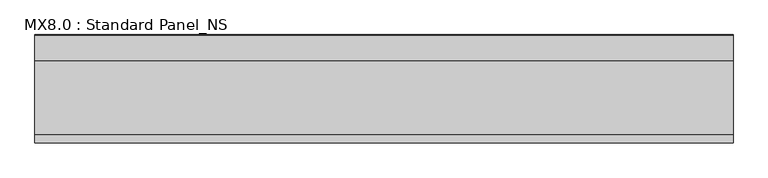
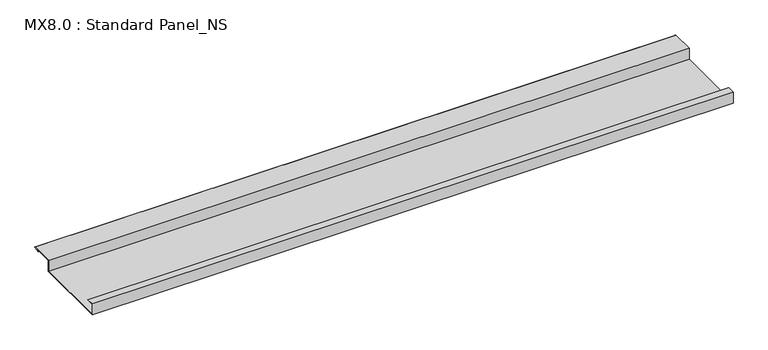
"""IFC4 building model written with IfcOpenShell, lengths in millimetres: proxy geometry, MX8.0 : Standard Panel_NS."""

from ifc_helpers import new_model, si_unit, point, frame, frame_2d, origin, place, context, project, spatial, polyline, circle_curve, trimmed, segment, composite_curve, outline, extrude, source, transform, mapped, element, save


def mx8_0_standard_panel_ns_d4d0994c(model_context):
    return source(origin(), model_context, "Body", "SweptSolid", [
        extrude(outline(composite_curve([segment(polyline([(0.0, 0.0), (25.0, 0.0), (25.0, -1.0), (1.0, -1.0), (1.0, -37.0), (249.0, -37.0), (249.0, 1.0), (325.0510156, 1.0)]), True, "CONTINUOUS"), segment(trimmed(circle_curve(frame_2d((324.3094696, -0.9153551)), 2.0538928), [point((325.0510156, 1.0))], [point((325.1748462, -2.778041))], False, "CARTESIAN"), True, "CONTINUOUS"), segment(polyline([(325.1748462, -2.778041), (308.7874714, -5.923107), (308.5989911, -4.94103), (324.8448691, -1.8231201)]), True, "CONTINUOUS"), segment(trimmed(circle_curve(frame_2d((324.3094696, -0.9153551)), 1.0538928), [point((324.8448691, -1.8231201))], [point((324.8317866, 0.0))], True, "CARTESIAN"), True, "CONTINUOUS"), segment(polyline([(324.8317866, 0.0), (250.0, 0.0), (250.0, -38.0), (0.0, -38.0), (0.0, 0.0)]), True, "CONTINUOUS")], self_intersect=False)), frame((0.0, 0.0, 0.0), z_axis=(1.0, 0.0, 0.0), x_axis=(0.0, 1.0, 0.0)), (0.0, 0.0, 1.0), 2100.0),
    ])


if __name__ == "__main__":
    model = new_model("IFC4")
    model_context = context("Model", 3, world=origin())
    ifc_project = project(units=[si_unit("LENGTHUNIT", "METRE", prefix="MILLI")], contexts=[model_context])
    site = spatial("IfcSite", under=ifc_project)
    building = spatial("IfcBuilding", under=site)
    placement = place(None, origin())
    mx8_0_standard_panel_ns_shape = mx8_0_standard_panel_ns_d4d0994c(model_context)
    element("IfcBuildingElementProxy", 1, Name="MX8.0 : Standard Panel_NS", ObjectType="MX8.0 : Standard Panel_NS", at=placement, inside=building, context=model_context, shape_type="MappedRepresentation", body=[
        mapped(mx8_0_standard_panel_ns_shape, transform((0.0, 0.0, 0.0), x_axis=(1.0, 0.0, 0.0), y_axis=(0.0, 1.0, 0.0), z_axis=(0.0, 0.0, 1.0))),
    ])
    save(model, "model.ifc")
